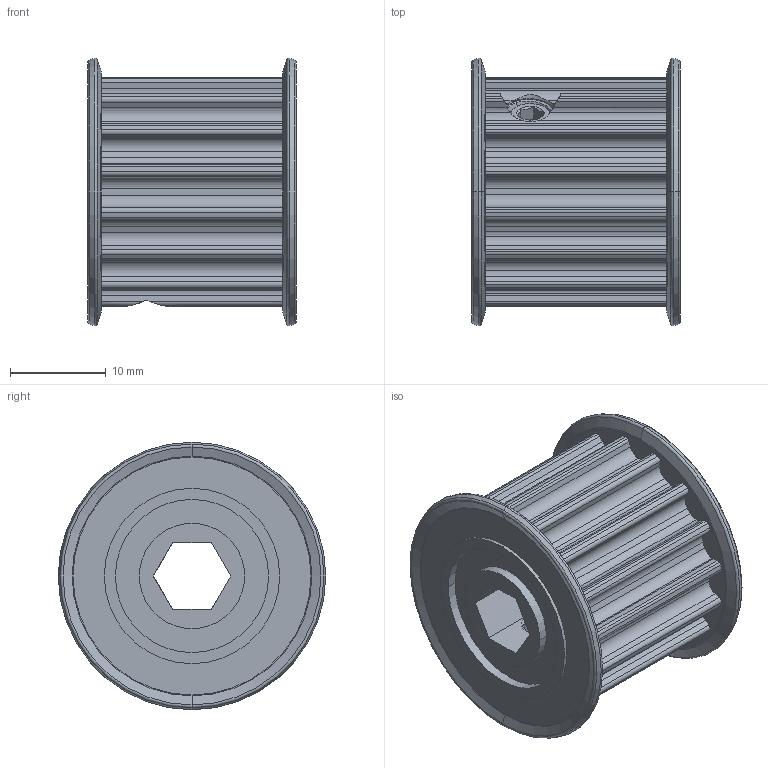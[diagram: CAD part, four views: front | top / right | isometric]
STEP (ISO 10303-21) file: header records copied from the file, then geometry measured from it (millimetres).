
FILE_DESCRIPTION (( 'STEP AP203' ), '1' );
FILE_NAME ('3424-4008-0016 assembly.STEP', '2022-03-23T20:39:29', ( '' ), ( '' ), 'SwSTEP 2.0', 'SolidWorks 2016', '' );
FILE_SCHEMA (( 'CONFIG_CONTROL_DESIGN' ));
Length unit declared in the file: millimetre
Products named in the file (4): 3424-4008-0016 body; 3424-4008-0016 ring; 2806-0005-0006_91390A118; 3424-4008-0016 assembly
Assembly tree (5 placements, depth 2):
  3424-4008-0016 assembly
    3424-4008-0016 body
    3424-4008-0016 ring  x2
    2806-0005-0006_91390A118  x2
Bounding box: 21.75 x 27.96 x 27.96 mm (x, y, z)
Volume: 7306.3 mm3; surface area: 5816 mm2
Topology: 5 solids, 5 shells, 422 faces, 1167 edges, 753 vertices
Faces by surface type: cylinder 237, plane 100, cone 53, bspline 16, torus 16
Entity records: 17819 total; most frequent: CARTESIAN_POINT 8383, ORIENTED_EDGE 2032, DIRECTION 1753, EDGE_CURVE 1016, VERTEX_POINT 669, AXIS2_PLACEMENT_3D 662, LINE 429, VECTOR 429
